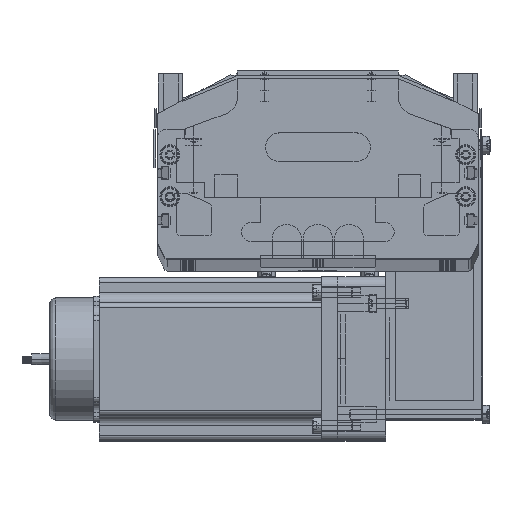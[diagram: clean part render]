
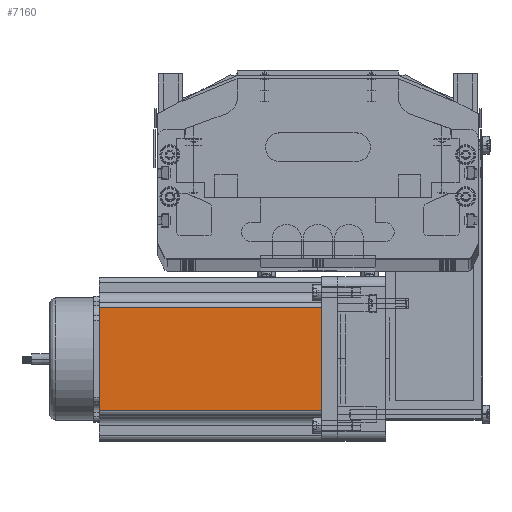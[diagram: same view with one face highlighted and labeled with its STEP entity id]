
A CAD part, top view. The second image highlights one B-rep face of the part: STEP entity #7160.
In plain terms, the highlighted planar face has unit normal (0, 0, 1) as drawn and (0, -1, 0) by its records, which use the part's own axes.
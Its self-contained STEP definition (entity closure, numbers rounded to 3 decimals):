
#6792 = EDGE_LOOP ( 'NONE', ( #6926, #7173, #7186, #7212 ) ) ;
#6836 = VERTEX_POINT ( 'NONE', #33465 ) ;
#6926 = ORIENTED_EDGE ( 'NONE', *, *, #7180, .T. ) ;
#6944 = VERTEX_POINT ( 'NONE', #33373 ) ;
#7153 = VERTEX_POINT ( 'NONE', #33726 ) ;
#7160 = ADVANCED_FACE ( 'NONE', ( #33710 ), #33728, .F. ) ;
#7173 = ORIENTED_EDGE ( 'NONE', *, *, #7174, .T. ) ;
#7174 = EDGE_CURVE ( 'NONE', #6944, #7153, #33758, .T. ) ;
#7180 = EDGE_CURVE ( 'NONE', #6836, #6944, #33754, .T. ) ;
#7186 = ORIENTED_EDGE ( 'NONE', *, *, #7187, .F. ) ;
#7187 = EDGE_CURVE ( 'NONE', #7211, #7153, #33745, .T. ) ;
#7200 = EDGE_CURVE ( 'NONE', #7211, #6836, #33705, .T. ) ;
#7211 = VERTEX_POINT ( 'NONE', #33736 ) ;
#7212 = ORIENTED_EDGE ( 'NONE', *, *, #7200, .T. ) ;
#33373 = CARTESIAN_POINT ( 'NONE',  ( 69.74, 0., 0. ) ) ;
#33465 = CARTESIAN_POINT ( 'NONE',  ( 16.16, 0., 0. ) ) ;
#33704 = CARTESIAN_POINT ( 'NONE',  ( 16.16, 0., 116.5 ) ) ;
#33705 = LINE ( 'NONE', #33704, #33738 ) ;
#33707 = DIRECTION ( 'NONE',  ( 0., 0., 1. ) ) ;
#33708 = DIRECTION ( 'NONE',  ( 0., 1., 0. ) ) ;
#33710 = FACE_OUTER_BOUND ( 'NONE', #6792, .T. ) ;
#33721 = CARTESIAN_POINT ( 'NONE',  ( 0., 0., 116.5 ) ) ;
#33722 = AXIS2_PLACEMENT_3D ( 'NONE', #33721, #33708, #33707 ) ;
#33726 = CARTESIAN_POINT ( 'NONE',  ( 69.74, 0., 116.5 ) ) ;
#33728 = PLANE ( 'NONE',  #33722 ) ;
#33736 = CARTESIAN_POINT ( 'NONE',  ( 16.16, 0., 116.5 ) ) ;
#33737 = DIRECTION ( 'NONE',  ( 0., 0., -1. ) ) ;
#33738 = VECTOR ( 'NONE', #33737, 1000. ) ;
#33742 = DIRECTION ( 'NONE',  ( 1., 0., 0. ) ) ;
#33743 = VECTOR ( 'NONE', #33742, 1000. ) ;
#33744 = CARTESIAN_POINT ( 'NONE',  ( 0., 0., 116.5 ) ) ;
#33745 = LINE ( 'NONE', #33744, #33743 ) ;
#33751 = DIRECTION ( 'NONE',  ( 1., 0., 0. ) ) ;
#33752 = VECTOR ( 'NONE', #33751, 1000. ) ;
#33753 = CARTESIAN_POINT ( 'NONE',  ( 0., 0., 0. ) ) ;
#33754 = LINE ( 'NONE', #33753, #33752 ) ;
#33755 = DIRECTION ( 'NONE',  ( 0., 0., 1. ) ) ;
#33756 = VECTOR ( 'NONE', #33755, 1000. ) ;
#33757 = CARTESIAN_POINT ( 'NONE',  ( 69.74, 0., 116.5 ) ) ;
#33758 = LINE ( 'NONE', #33757, #33756 ) ;
